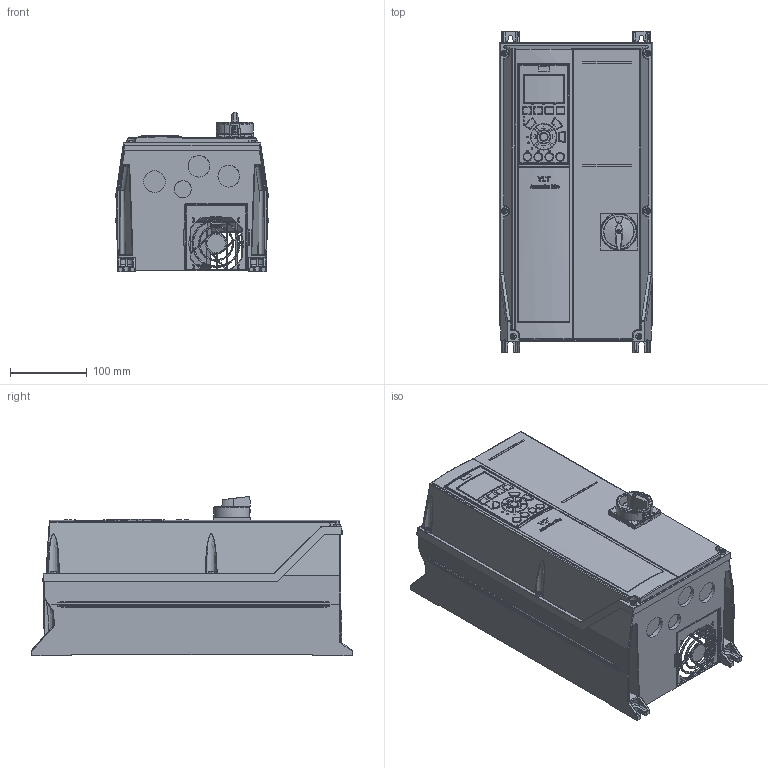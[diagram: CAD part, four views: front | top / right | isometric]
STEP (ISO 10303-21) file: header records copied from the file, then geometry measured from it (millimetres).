
FILE_DESCRIPTION((''),'2;1');
FILE_NAME('DANFOSS-FC300-A4-SWITCH','2011-09-21T',('cstephenkumar'),('Be-Atch INC. 1993'),'PRO/ENGINEER BY PARAMETRIC TECHNOLOGY CORPORATION, 2009360','PRO/ENGINEER BY PARAMETRIC TECHNOLOGY CORPORATION, 2009360','');
FILE_SCHEMA(('AUTOMOTIVE_DESIGN { 1 0 10303 214 1 1 1 1 }'));
Products named in the file (1): DANFOSS-FC300-A4-SWITCH
Bounding box: 200 x 420 x 207.82 mm (x, y, z)
Volume: 10387784.4 mm3; surface area: 744943 mm2
Topology: 1 solids, 22 shells, 3899 faces, 9986 edges, 6187 vertices
Faces by surface type: plane 1496, cylinder 1021, bspline 803, extrusion 262, torus 159, cone 95, sphere 63
Entity records: 163333 total; most frequent: CARTESIAN_POINT 73104, ORIENTED_EDGE 19936, DIRECTION 15203, EDGE_CURVE 9968, VERTEX_POINT 6185, AXIS2_PLACEMENT_3D 5084, VECTOR 5035, LINE 4773
